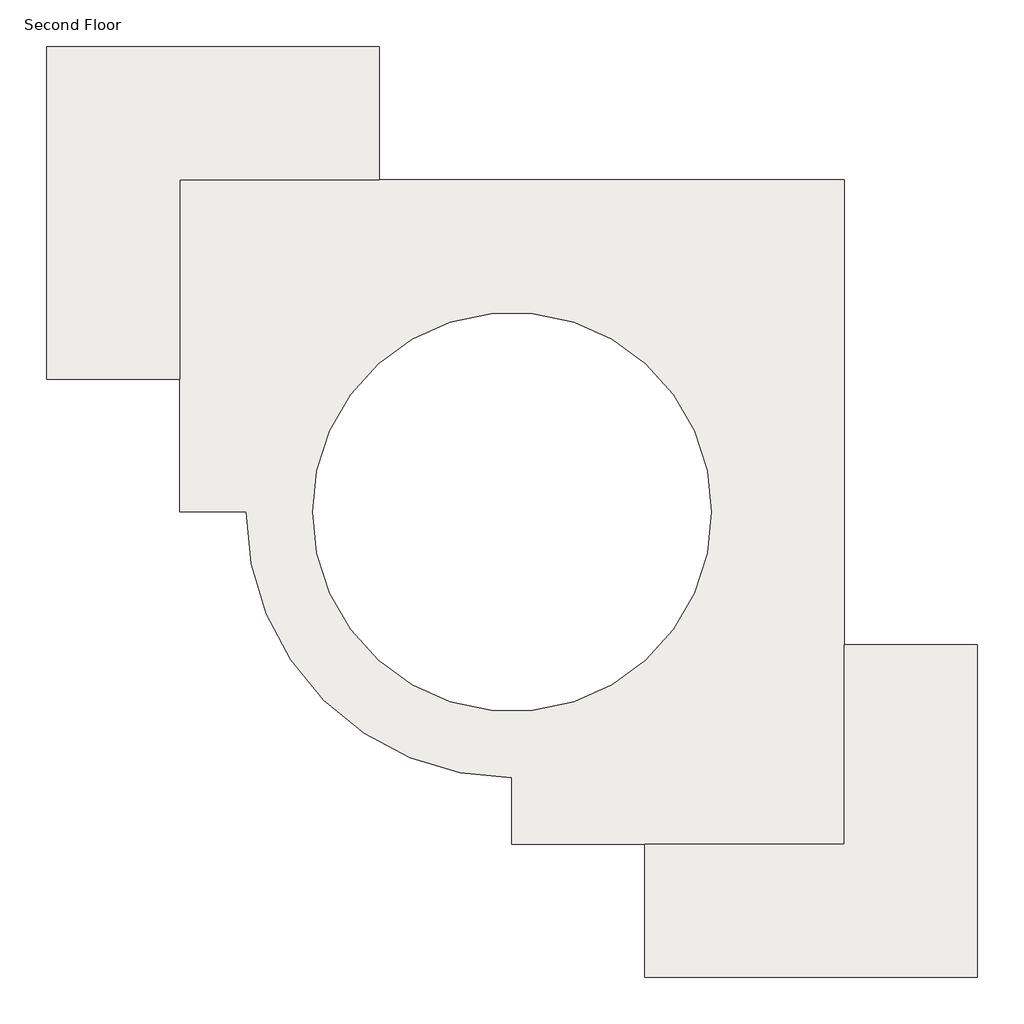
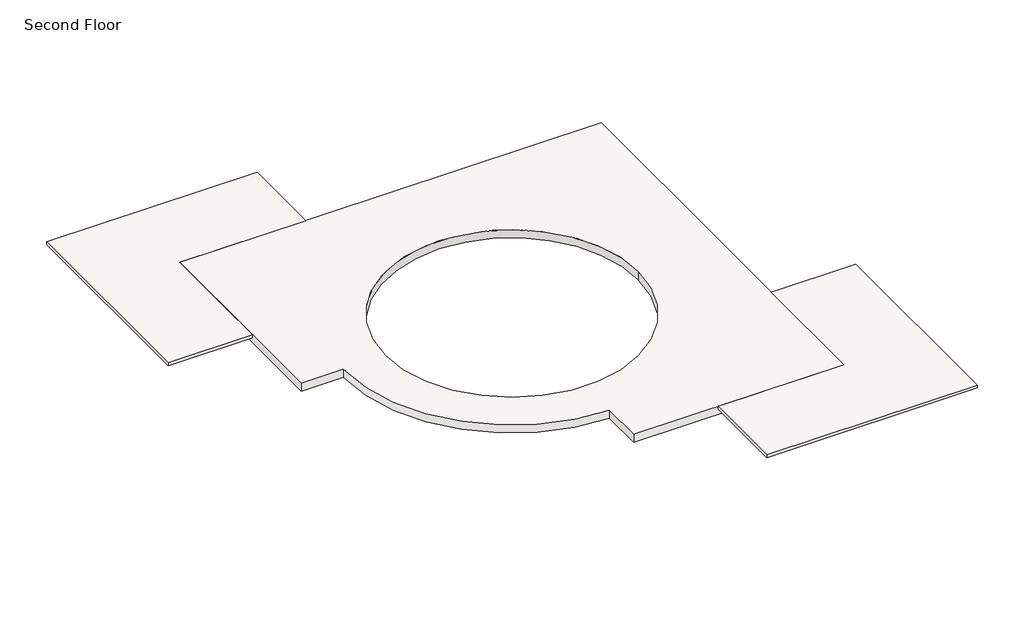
# One storey: 2 slabs.
"""IFC4 building model written with IfcOpenShell, lengths in millimetres."""

import ifcopenshell
import ifcopenshell.guid

model = None  # the IFC model being written
_history = None  # IfcOwnerHistory: only IFC2X3 demands one
_inside = {}  # id of a spatial element -> (the spatial element, [elements in it])
_under = {}  # id of a project, library or spatial element -> (it, [spatial elements below it])
_declared = {}  # id of a project -> (the project, [libraries it declares])
_typed = {}  # id of a type object -> (the type object, [elements of that type])
_made_of = {}  # id of a material, layer set ... -> (it, [elements and type objects made of it])


def new_model(schema):
    """Start an empty IFC model of exactly this schema.

    Asked for "IFC4X3", IfcOpenShell would pick the latest addendum, in which some entities
    have other attributes; the version numbers below select the first issue.
    IFC2X3 requires an IfcOwnerHistory on every rooted entity: one is made here for all.
    """
    global model, _history
    if schema == "IFC4X3":
        model = ifcopenshell.file(schema_version=(4, 3, 0, 0))
    else:
        model = ifcopenshell.file(schema=schema)
    _inside.clear()
    _under.clear()
    _declared.clear()
    _typed.clear()
    _made_of.clear()
    _history = None
    if model.schema == "IFC2X3":
        org = make("IfcOrganization", Name="unknown")
        user = make(
            "IfcPersonAndOrganization",
            ThePerson=make("IfcPerson", FamilyName="unknown"),
            TheOrganization=org,
        )
        app = make(
            "IfcApplication",
            ApplicationDeveloper=org,
            Version="unknown",
            ApplicationFullName="unknown",
            ApplicationIdentifier="unknown",
        )
        _history = make(
            "IfcOwnerHistory",
            OwningUser=user,
            OwningApplication=app,
            ChangeAction="ADDED",
            CreationDate=0,
        )
    return model


def make(cls, **values):
    """One entity of the class cls with the attributes given. An attribute that is None is left unset."""
    return model.create_entity(
        cls, **{name: value for name, value in values.items() if value is not None}
    )


def rooted(cls, **values):
    """An entity with a GlobalId (a new one), such as an element, a storey or a relation."""
    return make(cls, GlobalId=ifcopenshell.guid.new(), OwnerHistory=_history, **values)


def si_unit(unit_type, name, prefix=None):
    """IfcSIUnit, for example si_unit("LENGTHUNIT", "METRE", prefix="MILLI")."""
    return make("IfcSIUnit", UnitType=unit_type, Prefix=prefix, Name=name)


def assignment(units):
    """IfcUnitAssignment: the units of a project."""
    return None if units is None else make("IfcUnitAssignment", Units=units)


def point(xyz):
    """IfcCartesianPoint."""
    return None if xyz is None else make("IfcCartesianPoint", Coordinates=xyz)


def direction(xyz):
    """IfcDirection."""
    return None if xyz is None else make("IfcDirection", DirectionRatios=xyz)


def frame(location, z_axis=None, x_axis=None):
    """IfcAxis2Placement3D, a coordinate frame: its origin and axes. An axis left out is left unset."""
    return make(
        "IfcAxis2Placement3D",
        Location=point(location),
        Axis=direction(z_axis),
        RefDirection=direction(x_axis),
    )


def frame_2d(location, x_axis=None):
    """IfcAxis2Placement2D, a coordinate frame in the plane: its origin and x axis."""
    return make(
        "IfcAxis2Placement2D", Location=point(location), RefDirection=direction(x_axis)
    )


def origin():
    """The frame at (0, 0, 0) with its axes left unset."""
    return frame((0.0, 0.0, 0.0))


def place(relative_to, where):
    """IfcLocalPlacement: puts the frame where relative to a parent placement (None: the world)."""
    return make(
        "IfcLocalPlacement", PlacementRelTo=relative_to, RelativePlacement=where
    )


def context(
    kind, dimensions, precision=None, world=None, true_north=None, identifier=None
):
    """IfcGeometricRepresentationContext, for example the 3D "Model" context."""
    return make(
        "IfcGeometricRepresentationContext",
        ContextIdentifier=identifier,
        ContextType=kind,
        CoordinateSpaceDimension=dimensions,
        Precision=precision,
        WorldCoordinateSystem=world,
        TrueNorth=true_north,
    )


def project(units=None, contexts=None):
    """IfcProject with its units and contexts."""
    return rooted(
        "IfcProject",
        Name="project",
        RepresentationContexts=contexts,
        UnitsInContext=assignment(units),
    )


def spatial(cls, under=None, at=None, **own):
    """A site, building, storey or space (cls), placed at a placement, below another one or the project."""
    s = rooted(cls, ObjectPlacement=at, **own)
    if under is not None:
        _under.setdefault(under.id(), (under, []))[1].append(s)
    return s


def polyline(points):
    """IfcPolyline through the points."""
    return make("IfcPolyline", Points=[point(p) for p in points])


def circle_curve(where, radius):
    """IfcCircle in the frame where."""
    return make("IfcCircle", Position=where, Radius=radius)


def trimmed(basis, trim1, trim2, sense, master):
    """IfcTrimmedCurve: the piece of a basis curve between two trims."""
    return make(
        "IfcTrimmedCurve",
        BasisCurve=basis,
        Trim1=trim1,
        Trim2=trim2,
        SenseAgreement=sense,
        MasterRepresentation=master,
    )


def segment(curve, same_sense, transition):
    """IfcCompositeCurveSegment."""
    return make(
        "IfcCompositeCurveSegment",
        Transition=transition,
        SameSense=same_sense,
        ParentCurve=curve,
    )


def composite_curve(segments, self_intersect=None):
    """IfcCompositeCurve: segments joined end to end."""
    return make("IfcCompositeCurve", Segments=segments, SelfIntersect=self_intersect)


def outline(outer, holes=None, kind="AREA"):
    """IfcArbitraryClosedProfileDef: a profile drawn as a closed curve; with holes, ...WithVoids."""
    if holes is None:
        return make("IfcArbitraryClosedProfileDef", ProfileType=kind, OuterCurve=outer)
    return make(
        "IfcArbitraryProfileDefWithVoids",
        ProfileType=kind,
        OuterCurve=outer,
        InnerCurves=holes,
    )


def extrude(swept, where, along, depth):
    """IfcExtrudedAreaSolid: the profile swept, set in the frame where, extruded along a direction by depth."""
    return make(
        "IfcExtrudedAreaSolid",
        SweptArea=swept,
        Position=where,
        ExtrudedDirection=direction(along),
        Depth=depth,
    )


def shape(context_of_items, identifier, shape_type, items):
    """IfcShapeRepresentation: the items that make up one representation, for example the "Body"."""
    return make(
        "IfcShapeRepresentation",
        ContextOfItems=context_of_items,
        RepresentationIdentifier=identifier,
        RepresentationType=shape_type,
        Items=items,
    )


def made_of(thing, what):
    """Note that an element or type object is made of a material, layer set ...; save() writes the relation."""
    if what is not None:
        _made_of.setdefault(what.id(), (what, []))[1].append(thing)
    return thing


def element(
    cls,
    number,
    at=None,
    inside=None,
    cuts=None,
    type_object=None,
    material=None,
    context=None,
    identifier="Body",
    shape_type=None,
    held_by="IfcProductDefinitionShape",
    body=None,
    shapes=None,
    **own,
):
    """One element of the class cls, such as IfcWall. Its Tag is "e" and its number.

    at: its placement. inside: the storey or other place that contains it. cuts: it is an
    opening in that element (IfcRelVoidsElement). A single representation is given by context,
    identifier, shape_type and body (its items); several are given by shapes. held_by: the class
    of the entity that holds the representations. save() writes the other relations.
    """
    e = rooted(cls, Tag="e%d" % number, ObjectPlacement=at, **own)
    if body is not None:
        shapes = [shape(context, identifier, shape_type, body)]
    if shapes is not None:
        e.Representation = make(held_by, Representations=shapes)
    if inside is not None:
        _inside.setdefault(inside.id(), (inside, []))[1].append(e)
    if cuts is not None:
        rooted(
            "IfcRelVoidsElement", RelatingBuildingElement=cuts, RelatedOpeningElement=e
        )
    if type_object is not None:
        _typed.setdefault(type_object.id(), (type_object, []))[1].append(e)
    return made_of(e, material)


def aggregate(whole, parts):
    """IfcRelAggregates: a whole, such as a stair, and the parts it consists of."""
    return rooted("IfcRelAggregates", RelatingObject=whole, RelatedObjects=parts)


def save(model, path):
    """Write the relations noted so far, then the file.

    IfcRelAggregates (storeys below a building ...), IfcRelContainedInSpatialStructure (elements
    in a storey), IfcRelDefinesByType, IfcRelAssociatesMaterial and IfcRelDeclares: one each for
    every whole, place, type object, material and project.
    """
    for whole, parts in _under.values():
        aggregate(whole, parts)
    for where, things in _inside.values():
        rooted(
            "IfcRelContainedInSpatialStructure",
            RelatedElements=things,
            RelatingStructure=where,
        )
    for kind, things in _typed.values():
        rooted("IfcRelDefinesByType", RelatedObjects=things, RelatingType=kind)
    for what, things in _made_of.values():
        rooted("IfcRelAssociatesMaterial", RelatedObjects=things, RelatingMaterial=what)
    for by, libraries in _declared.values():
        rooted("IfcRelDeclares", RelatingContext=by, RelatedDefinitions=libraries)
    model.write(path)


model = new_model("IFC4")

# Units and contexts
model_context = context("Model", 3, world=origin())
ifc_project = project(units=[si_unit("LENGTHUNIT", "METRE", prefix="MILLI")], contexts=[model_context])

# Site, building, storey
site = spatial("IfcSite", under=ifc_project)
building = spatial("IfcBuilding", under=site)
storey = spatial("IfcBuildingStorey", under=building, Name="Second Floor", Elevation=3048.0)

# Slabs
placement = place(None, origin())
element("IfcSlab", 1, ObjectType="Generic - 12\"", at=placement, inside=storey, context=model_context, shape_type="SweptSolid", body=[
    extrude(outline(composite_curve([segment(polyline([(734.736716, 12739.1261432), (734.736716, -2500.8738568), (-6885.263284, -2500.8738568), (-6885.263284, -976.8738568)]), True, "CONTINUOUS"), segment(trimmed(circle_curve(frame_2d((-6885.263284, 5119.1261432)), 6096.0), [point((-6885.263284, -976.8738568))], [point((-12981.263284, 5119.1261432))], False, "CARTESIAN"), True, "CONTINUOUS"), segment(polyline([(-12981.263284, 5119.1261432), (-14505.263284, 5119.1261432), (-14505.263284, 12739.1261432), (734.736716, 12739.1261432)]), True, "CONTINUOUS")], self_intersect=False), holes=[composite_curve([segment(trimmed(circle_curve(frame_2d((-6885.263284, 5119.1261432)), 4572.0), [point((-2313.263284, 5119.1261432))], [point((-11457.263284, 5119.1261432))], True, "CARTESIAN"), True, "CONTINUOUS"), segment(trimmed(circle_curve(frame_2d((-6885.263284, 5119.1261432)), 4572.0), [point((-11457.263284, 5119.1261432))], [point((-2313.263284, 5119.1261432))], True, "CARTESIAN"), True, "CONTINUOUS")], self_intersect=False)]), frame((0.0, 0.0, 2743.2), z_axis=(0.0, 0.0, 1.0), x_axis=(1.0, 0.0, 0.0)), (0.0, 0.0, 1.0), 304.8),
])
element("IfcSlab", 2, ObjectType="LW Concrete on Metal Deck", at=placement, inside=storey, context=model_context, shape_type="SweptSolid", body=[
    extrude(outline(polyline([(-9933.263284, 12739.1261432), (-14505.263284, 12739.1261432), (-14505.263284, 8167.1261432), (-17553.263284, 8167.1261432), (-17553.263284, 15787.1261432), (-9933.263284, 15787.1261432), (-9933.263284, 12739.1261432)])), frame((0.0, 0.0, 2943.225), z_axis=(0.0, 0.0, 1.0), x_axis=(1.0, 0.0, 0.0)), (0.0, 0.0, 1.0), 104.775),
    extrude(outline(polyline([(734.736716, 2071.1261432), (3782.736716, 2071.1261432), (3782.736716, -5548.8738568), (-3837.263284, -5548.8738568), (-3837.263284, -2500.8738568), (734.736716, -2500.8738568), (734.736716, 2071.1261432)])), frame((0.0, 0.0, 2943.225), z_axis=(0.0, 0.0, 1.0), x_axis=(1.0, 0.0, 0.0)), (0.0, 0.0, 1.0), 104.775),
])

save(model, "model.ifc")
